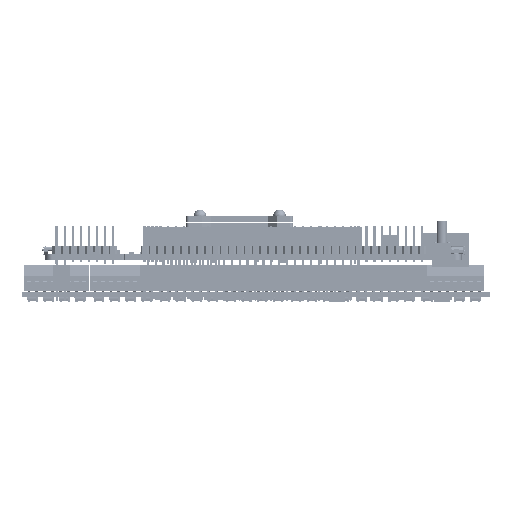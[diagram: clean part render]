
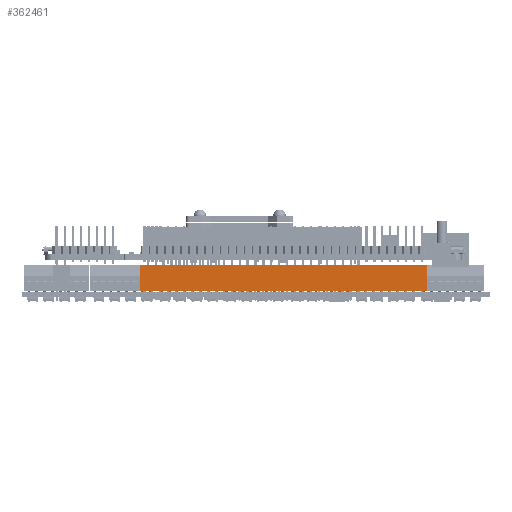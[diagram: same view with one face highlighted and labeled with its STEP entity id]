
A CAD part, left-side view. The second image highlights one B-rep face of the part: STEP entity #362461.
In plain terms, the highlighted planar face has unit normal (-1, 0, 0).
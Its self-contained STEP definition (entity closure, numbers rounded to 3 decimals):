
#361060 = VERTEX_POINT('',#361061);
#361061 = CARTESIAN_POINT('',(2.06,112.27,
    8.45));
#361067 = EDGE_CURVE('',#361060,#361068,#361070,.T.);
#361068 = VERTEX_POINT('',#361069);
#361069 = CARTESIAN_POINT('',(2.06,20.33,
    8.45));
#361070 = LINE('',#361071,#361072);
#361071 = CARTESIAN_POINT('',(2.06,112.27,
    8.45));
#361072 = VECTOR('',#361073,1.);
#361073 = DIRECTION('',(0.,-1.,0.));
#362323 = VERTEX_POINT('',#362324);
#362324 = CARTESIAN_POINT('',(2.06,112.27,
    0.05));
#362330 = EDGE_CURVE('',#362323,#361060,#362331,.T.);
#362331 = LINE('',#362332,#362333);
#362332 = CARTESIAN_POINT('',(2.06,112.27,
    0.05));
#362333 = VECTOR('',#362334,1.);
#362334 = DIRECTION('',(0.,0.,1.));
#362368 = VERTEX_POINT('',#362369);
#362369 = CARTESIAN_POINT('',(2.06,20.33,
    0.05));
#362407 = EDGE_CURVE('',#361068,#362368,#362408,.T.);
#362408 = LINE('',#362409,#362410);
#362409 = CARTESIAN_POINT('',(2.06,20.33,
    8.45));
#362410 = VECTOR('',#362411,1.);
#362411 = DIRECTION('',(0.,0.,-1.));
#362429 = EDGE_CURVE('',#362368,#362323,#362430,.T.);
#362430 = LINE('',#362431,#362432);
#362431 = CARTESIAN_POINT('',(2.06,20.33,
    0.05));
#362432 = VECTOR('',#362433,1.);
#362433 = DIRECTION('',(0.,1.,0.));
#362461 = ADVANCED_FACE('',(#362462),#362468,.F.);
#362462 = FACE_BOUND('',#362463,.T.);
#362463 = EDGE_LOOP('',(#362464,#362465,#362466,#362467));
#362464 = ORIENTED_EDGE('',*,*,#362330,.F.);
#362465 = ORIENTED_EDGE('',*,*,#362429,.F.);
#362466 = ORIENTED_EDGE('',*,*,#362407,.F.);
#362467 = ORIENTED_EDGE('',*,*,#361067,.F.);
#362468 = PLANE('',#362469);
#362469 = AXIS2_PLACEMENT_3D('',#362470,#362471,#362472);
#362470 = CARTESIAN_POINT('',(2.06,66.3,
    4.25));
#362471 = DIRECTION('',(1.,0.,0.));
#362472 = DIRECTION('',(0.,0.,1.));
